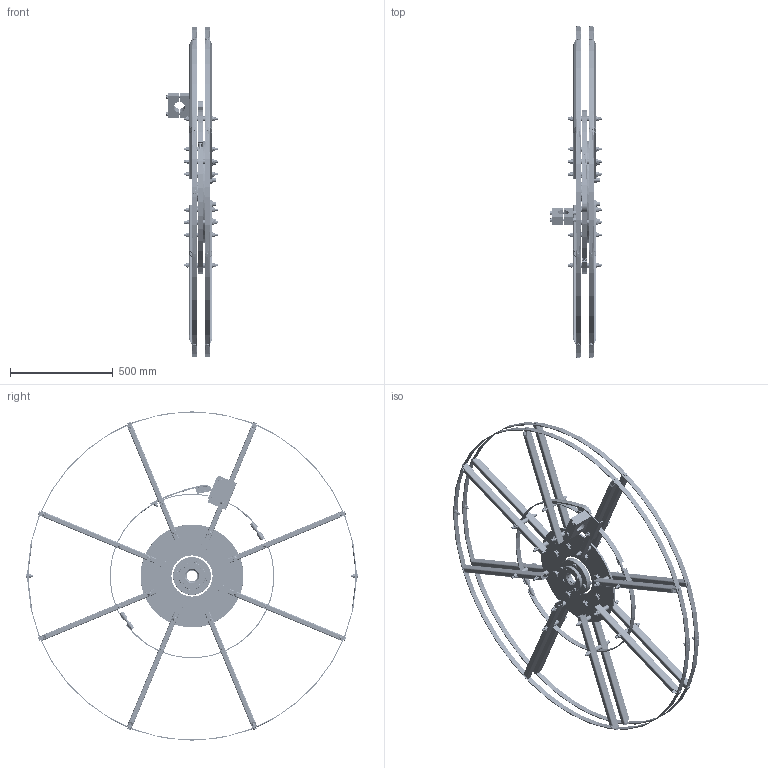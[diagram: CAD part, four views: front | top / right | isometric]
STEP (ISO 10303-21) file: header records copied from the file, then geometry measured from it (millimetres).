
FILE_DESCRIPTION(/* description */ (''),/* implementation_level */ '2;1');
FILE_NAME(/* name */ 'K:\NEMANJA\CABLE REEL\SPOOL\0700-6\07006001 SGF-SGR\ROUND\35813.stp',/* time_stamp */ '2017-03-15T12:56:11+01:00',/* author */ ('zeldjo01'),/* organization */ (''),/* preprocessor_version */ 'ST-DEVELOPER v16.1',/* originating_system */ 'Autodesk Inventor 2016',/* authorisation */ '');
FILE_SCHEMA (('AUTOMOTIVE_DESIGN { 1 0 10303 214 3 1 1 }'));
Products named in the file (1): 35813
Bounding box: 248.57 x 1612.8 x 1600 mm (x, y, z)
Volume: 8538612.7 mm3; surface area: 3713054.9 mm2
Topology: 3 solids, 4 shells, 3082 faces, 7734 edges, 4957 vertices
Faces by surface type: plane 1745, cylinder 857, cone 472, torus 6, bspline 2
Full cylindrical faces by diameter (mm): 6.647 x4, 7.323 x4, 8 x4, 9 x4, 9.188 x20, 10 x47, 10.5 x16, 10.8 x1, 11 x20, 11.053 x4, 11.4 x4, 11.5 x2, 12 x56, 12.7 x82, 13 x37, 13.5 x4, 14 x4, 15.4 x20, 15.6 x6, 17.2 x4, 17.4 x32, 20 x24, 21 x16, 22 x9, 22.2 x20, 24 x31, 27.7 x7, 28.2 x8, 37 x16, 52.5 x1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
Entity records: 90932 total; most frequent: CARTESIAN_POINT 19994, DIRECTION 13965, ORIENTED_EDGE 13522, EDGE_CURVE 6728, AXIS2_PLACEMENT_3D 5613, VERTEX_POINT 4675, EDGE_LOOP 4424, STYLED_ITEM 3085
